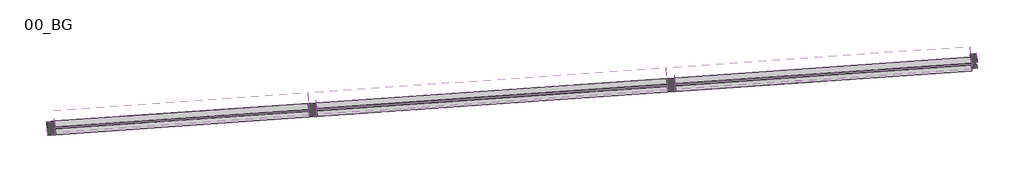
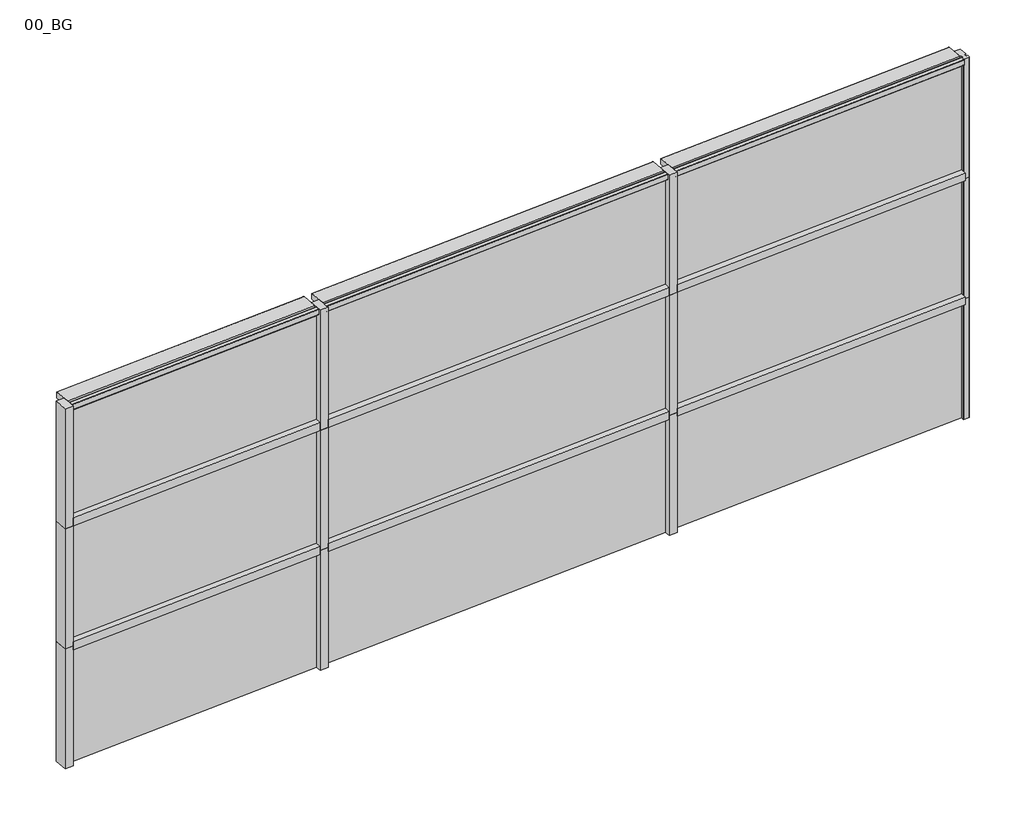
# One storey, incomplete: 21 members, 9 plates.
"""IFC4 building model written with IfcOpenShell, lengths in millimetres."""

from ifc_helpers import new_model, si_unit, origin, place, context, project, spatial, transform, mapped, element, save
from components import rectangular_mullion_06f2ecc5, rectangular_mullion_f1299129, rectangular_mullion_e95b822f, rectangular_mullion_34e5cd4e, rectangular_mullion_53f27373, rectangular_mullion_723cc66a, rectangular_mullion_c9114e96, rectangular_mullion_9417e5ac, rectangular_mullion_30_hout_links_a64d900f, rectangular_mullion_30_hout_rechts_a9cd09ce, rectangular_mullion_30_hout_rechts_4bb27563, rectangular_mullion_30_hout_rechts_13283482, system_panel_glazed_285ea693, system_panel_glazed_1aea73b9, system_panel_glazed_1b3e268e, system_panel_glazed_4d74a10d, system_panel_glazed_31ea7d48, system_panel_glazed_cb2f4e5a

model = new_model("IFC4")

# Units and contexts
model_context = context("Model", 3, world=origin())
ifc_project = project(units=[si_unit("LENGTHUNIT", "METRE", prefix="MILLI")], contexts=[model_context])

# Site, building, storey
site = spatial("IfcSite", under=ifc_project)
building = spatial("IfcBuilding", under=site)
storey = spatial("IfcBuildingStorey", under=building, Name="00_BG", Elevation=0.0)

# Members
placement = place(None, origin())
rectangular_mullion_shape = rectangular_mullion_06f2ecc5(model_context)
element("IfcMember", 1, ObjectType="Rectangular Mullion : Reynaers verticaal", at=placement, inside=storey, context=model_context, shape_type="MappedRepresentation", body=[
    mapped(rectangular_mullion_shape, transform((15085.193339, 12107.0951367, 3100.0), x_axis=(0.0, 0.0, 1.0), y_axis=(-0.06975647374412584, 0.9975640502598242, 0.0), z_axis=(-0.9975640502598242, -0.06975647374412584, 0.0))),
])
rectangular_mullion_2_shape = rectangular_mullion_f1299129(model_context)
element("IfcMember", 2, ObjectType="Rectangular Mullion : Reynaers verticaal", at=placement, inside=storey, context=model_context, shape_type="MappedRepresentation", body=[
    mapped(rectangular_mullion_2_shape, transform((18044.7996155, 12314.0509682, 3100.0), x_axis=(0.0, 0.0, 1.0), y_axis=(-0.06975647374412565, 0.9975640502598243, 0.0), z_axis=(-0.9975640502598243, -0.06975647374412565, 0.0))),
])
rectangular_mullion_3_shape = rectangular_mullion_e95b822f(model_context)
element("IfcMember", 3, ObjectType="Rectangular Mullion : Reynaers verticaal", at=placement, inside=storey, context=model_context, shape_type="MappedRepresentation", body=[
    mapped(rectangular_mullion_3_shape, transform((12923.9708241, 11955.9677363, 3100.0), x_axis=(0.0, 0.0, 1.0), y_axis=(-0.06975647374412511, 0.9975640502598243, 0.0), z_axis=(-0.9975640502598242, -0.0697564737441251, 0.0))),
])
rectangular_mullion_4_shape = rectangular_mullion_34e5cd4e(model_context)
element("IfcMember", 4, ObjectType="Rectangular Mullion : 30_rechthoek", at=placement, inside=storey, context=model_context, shape_type="MappedRepresentation", body=[
    mapped(rectangular_mullion_4_shape, transform((12923.9708241, 11955.9677363, 1033.3333333), x_axis=(0.0, 0.0, 1.0), y_axis=(-0.06975647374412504, 0.9975640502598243, 0.0), z_axis=(-0.9975640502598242, -0.06975647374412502, 0.0))),
])
rectangular_mullion_5_shape = rectangular_mullion_53f27373(model_context)
element("IfcMember", 5, ObjectType="Rectangular Mullion : 30_rechthoek", at=placement, inside=storey, context=model_context, shape_type="MappedRepresentation", body=[
    mapped(rectangular_mullion_5_shape, transform((15085.193339, 12107.0951367, 1033.3333333), x_axis=(0.0, 0.0, 1.0), y_axis=(-0.06975647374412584, 0.9975640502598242, 0.0), z_axis=(-0.9975640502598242, -0.06975647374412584, 0.0))),
])
rectangular_mullion_6_shape = rectangular_mullion_723cc66a(model_context)
element("IfcMember", 6, ObjectType="Rectangular Mullion : 30_rechthoek", at=placement, inside=storey, context=model_context, shape_type="MappedRepresentation", body=[
    mapped(rectangular_mullion_6_shape, transform((18044.7996155, 12314.0509682, 1033.3333333), x_axis=(0.0, 0.0, 1.0), y_axis=(-0.06975647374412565, 0.9975640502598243, 0.0), z_axis=(-0.9975640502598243, -0.06975647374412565, 0.0))),
])
rectangular_mullion_7_shape = rectangular_mullion_c9114e96(model_context)
element("IfcMember", 7, ObjectType="Rectangular Mullion : 30_hout_midden", at=placement, inside=storey, context=model_context, shape_type="MappedRepresentation", body=[
    mapped(rectangular_mullion_7_shape, transform((15051.7749433, 12104.7582948, 2066.6666667), x_axis=(-0.9975640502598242, -0.06975647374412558, 0.0), y_axis=(-0.06975647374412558, 0.9975640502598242, 0.0), z_axis=(0.0, 0.0, -1.0))),
])
element("IfcMember", 8, ObjectType="Rectangular Mullion : 30_hout_midden", at=placement, inside=storey, context=model_context, shape_type="MappedRepresentation", body=[
    mapped(rectangular_mullion_7_shape, transform((15051.7749433, 12104.7582948, 1033.3333333), x_axis=(-0.9975640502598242, -0.06975647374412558, 0.0), y_axis=(-0.06975647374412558, 0.9975640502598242, 0.0), z_axis=(0.0, 0.0, -1.0))),
])
element("IfcMember", 9, ObjectType="Rectangular Mullion : 30_hout_midden", at=placement, inside=storey, context=model_context, shape_type="MappedRepresentation", body=[
    mapped(rectangular_mullion_7_shape, transform((15051.7749433, 12104.7582948, 0.0), x_axis=(-0.9975640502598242, -0.06975647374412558, 0.0), y_axis=(-0.06975647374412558, 0.9975640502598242, 0.0), z_axis=(0.0, 0.0, -1.0))),
])
rectangular_mullion_8_shape = rectangular_mullion_9417e5ac(model_context)
element("IfcMember", 10, ObjectType="Rectangular Mullion : Reynaers horizontaal", at=placement, inside=storey, context=model_context, shape_type="MappedRepresentation", body=[
    mapped(rectangular_mullion_8_shape, transform((20538.3772198, 12488.4189004, 2066.6666667), x_axis=(0.9975640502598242, 0.06975647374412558, 0.0), y_axis=(-0.06975647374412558, 0.9975640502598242, 0.0), z_axis=(0.0, 0.0, 1.0))),
])
element("IfcMember", 11, ObjectType="Rectangular Mullion : Reynaers horizontaal", at=placement, inside=storey, context=model_context, shape_type="MappedRepresentation", body=[
    mapped(rectangular_mullion_8_shape, transform((20538.3772198, 12488.4189004, 1033.3333333), x_axis=(0.9975640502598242, 0.06975647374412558, 0.0), y_axis=(-0.06975647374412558, 0.9975640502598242, 0.0), z_axis=(0.0, 0.0, 1.0))),
])
element("IfcMember", 12, ObjectType="Rectangular Mullion : Reynaers horizontaal", at=placement, inside=storey, context=model_context, shape_type="MappedRepresentation", body=[
    mapped(rectangular_mullion_8_shape, transform((20538.3772198, 12488.4189004, 3100.0), x_axis=(0.9975640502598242, 0.06975647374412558, 0.0), y_axis=(-0.06975647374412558, 0.9975640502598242, 0.0), z_axis=(0.0, 0.0, 1.0))),
])
rectangular_mullion_30_hout_links_shape = rectangular_mullion_30_hout_links_a64d900f(model_context)
element("IfcMember", 13, ObjectType="Rectangular Mullion : 30_hout_midden", at=placement, inside=storey, context=model_context, shape_type="MappedRepresentation", body=[
    mapped(rectangular_mullion_30_hout_links_shape, transform((12857.1340328, 11951.2940526, 2066.6666667), x_axis=(-0.9975640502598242, -0.06975647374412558, 0.0), y_axis=(-0.06975647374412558, 0.9975640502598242, 0.0), z_axis=(0.0, 0.0, -1.0))),
])
element("IfcMember", 14, ObjectType="Rectangular Mullion : 30_hout_midden", at=placement, inside=storey, context=model_context, shape_type="MappedRepresentation", body=[
    mapped(rectangular_mullion_30_hout_links_shape, transform((12857.1340328, 11951.2940526, 1033.3333333), x_axis=(-0.9975640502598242, -0.06975647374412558, 0.0), y_axis=(-0.06975647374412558, 0.9975640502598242, 0.0), z_axis=(0.0, 0.0, -1.0))),
])
element("IfcMember", 15, ObjectType="Rectangular Mullion : 30_hout_midden", at=placement, inside=storey, context=model_context, shape_type="MappedRepresentation", body=[
    mapped(rectangular_mullion_30_hout_links_shape, transform((12857.1340328, 11951.2940526, 0.0), x_axis=(-0.9975640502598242, -0.06975647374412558, 0.0), y_axis=(-0.06975647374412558, 0.9975640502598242, 0.0), z_axis=(0.0, 0.0, -1.0))),
])
element("IfcMember", 16, ObjectType="Rectangular Mullion : 30_hout_links", at=placement, inside=storey, context=model_context, shape_type="MappedRepresentation", body=[
    mapped(rectangular_mullion_30_hout_links_shape, transform((17977.9628241, 12309.3772845, 2066.6666667), x_axis=(-0.9975640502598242, -0.06975647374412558, 0.0), y_axis=(-0.06975647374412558, 0.9975640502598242, 0.0), z_axis=(0.0, 0.0, -1.0))),
])
element("IfcMember", 17, ObjectType="Rectangular Mullion : 30_hout_links", at=placement, inside=storey, context=model_context, shape_type="MappedRepresentation", body=[
    mapped(rectangular_mullion_30_hout_links_shape, transform((17977.9628241, 12309.3772845, 1033.3333333), x_axis=(-0.9975640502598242, -0.06975647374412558, 0.0), y_axis=(-0.06975647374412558, 0.9975640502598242, 0.0), z_axis=(0.0, 0.0, -1.0))),
])
element("IfcMember", 18, ObjectType="Rectangular Mullion : 30_hout_links", at=placement, inside=storey, context=model_context, shape_type="MappedRepresentation", body=[
    mapped(rectangular_mullion_30_hout_links_shape, transform((17977.9628241, 12309.3772845, 0.0), x_axis=(-0.9975640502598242, -0.06975647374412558, 0.0), y_axis=(-0.06975647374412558, 0.9975640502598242, 0.0), z_axis=(0.0, 0.0, -1.0))),
])
rectangular_mullion_30_hout_rechts_shape = rectangular_mullion_30_hout_rechts_a9cd09ce(model_context)
element("IfcMember", 19, ObjectType="Rectangular Mullion : 30_hout_rechts", at=placement, inside=storey, context=model_context, shape_type="MappedRepresentation", body=[
    mapped(rectangular_mullion_30_hout_rechts_shape, transform((12923.9708241, 11955.9677363, 2066.6666667), x_axis=(0.0, 0.0, 1.0), y_axis=(-0.06975647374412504, 0.9975640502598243, 0.0), z_axis=(-0.9975640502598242, -0.06975647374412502, 0.0))),
])
rectangular_mullion_30_hout_rechts_2_shape = rectangular_mullion_30_hout_rechts_4bb27563(model_context)
element("IfcMember", 20, ObjectType="Rectangular Mullion : 30_hout_rechts", at=placement, inside=storey, context=model_context, shape_type="MappedRepresentation", body=[
    mapped(rectangular_mullion_30_hout_rechts_2_shape, transform((15085.193339, 12107.0951367, 2066.6666667), x_axis=(0.0, 0.0, 1.0), y_axis=(-0.06975647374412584, 0.9975640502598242, 0.0), z_axis=(-0.9975640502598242, -0.06975647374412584, 0.0))),
])
rectangular_mullion_30_hout_rechts_3_shape = rectangular_mullion_30_hout_rechts_13283482(model_context)
element("IfcMember", 21, ObjectType="Rectangular Mullion : 30_hout_rechts", at=placement, inside=storey, context=model_context, shape_type="MappedRepresentation", body=[
    mapped(rectangular_mullion_30_hout_rechts_3_shape, transform((18044.7996155, 12314.0509682, 2066.6666667), x_axis=(0.0, 0.0, 1.0), y_axis=(-0.06975647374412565, 0.9975640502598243, 0.0), z_axis=(-0.9975640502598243, -0.06975647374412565, 0.0))),
])

# Plates
system_panel_glazed_shape = system_panel_glazed_285ea693(model_context)
element("IfcPlate", 22, ObjectType="System Panel : Glazed", at=placement, inside=storey, context=model_context, shape_type="MappedRepresentation", body=[
    mapped(system_panel_glazed_shape, transform((19273.5365343, 12399.9726237, 0.0), x_axis=(-0.9975640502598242, -0.06975647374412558, 0.0), y_axis=(0.06975647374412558, -0.9975640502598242, 0.0), z_axis=(0.0, 0.0, 1.0))),
])
element("IfcPlate", 23, ObjectType="System Panel : Glazed", at=placement, inside=storey, context=model_context, shape_type="MappedRepresentation", body=[
    mapped(system_panel_glazed_shape, transform((19273.5365343, 12399.9726237, 1066.8333333), x_axis=(-0.9975640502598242, -0.06975647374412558, 0.0), y_axis=(0.06975647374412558, -0.9975640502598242, 0.0), z_axis=(0.0, 0.0, 1.0))),
])
system_panel_glazed_2_shape = system_panel_glazed_1aea73b9(model_context)
element("IfcPlate", 24, ObjectType="System Panel : Glazed", at=placement, inside=storey, context=model_context, shape_type="MappedRepresentation", body=[
    mapped(system_panel_glazed_2_shape, transform((16531.5780816, 12208.2362106, 1066.8333333), x_axis=(-0.9975640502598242, -0.06975647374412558, 0.0), y_axis=(0.06975647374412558, -0.9975640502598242, 0.0), z_axis=(0.0, 0.0, 1.0))),
])
system_panel_glazed_3_shape = system_panel_glazed_1b3e268e(model_context)
element("IfcPlate", 25, ObjectType="System Panel : Glazed", at=placement, inside=storey, context=model_context, shape_type="MappedRepresentation", body=[
    mapped(system_panel_glazed_3_shape, transform((19273.5365343, 12399.9726237, 2133.6666667), x_axis=(-0.9975640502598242, -0.06975647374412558, 0.0), y_axis=(0.06975647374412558, -0.9975640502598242, 0.0), z_axis=(0.0, 0.0, 1.0))),
])
system_panel_glazed_4_shape = system_panel_glazed_4d74a10d(model_context)
element("IfcPlate", 26, ObjectType="System Panel : Glazed", at=placement, inside=storey, context=model_context, shape_type="MappedRepresentation", body=[
    mapped(system_panel_glazed_4_shape, transform((16531.5780816, 12208.2362106, 2133.6666667), x_axis=(-0.9975640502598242, -0.06975647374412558, 0.0), y_axis=(0.06975647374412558, -0.9975640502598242, 0.0), z_axis=(0.0, 0.0, 1.0))),
])
system_panel_glazed_5_shape = system_panel_glazed_31ea7d48(model_context)
element("IfcPlate", 27, ObjectType="System Panel : Glazed", at=placement, inside=storey, context=model_context, shape_type="MappedRepresentation", body=[
    mapped(system_panel_glazed_5_shape, transform((13971.1636859, 12029.1945947, 0.0), x_axis=(-0.9975640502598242, -0.06975647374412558, 0.0), y_axis=(0.06975647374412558, -0.9975640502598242, 0.0), z_axis=(0.0, 0.0, 1.0))),
])
element("IfcPlate", 28, ObjectType="System Panel : Glazed", at=placement, inside=storey, context=model_context, shape_type="MappedRepresentation", body=[
    mapped(system_panel_glazed_5_shape, transform((13971.1636859, 12029.1945947, 1066.8333333), x_axis=(-0.9975640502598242, -0.06975647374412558, 0.0), y_axis=(0.06975647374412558, -0.9975640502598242, 0.0), z_axis=(0.0, 0.0, 1.0))),
])
system_panel_glazed_6_shape = system_panel_glazed_cb2f4e5a(model_context)
element("IfcPlate", 29, ObjectType="System Panel : Glazed", at=placement, inside=storey, context=model_context, shape_type="MappedRepresentation", body=[
    mapped(system_panel_glazed_6_shape, transform((13971.1636859, 12029.1945947, 2133.6666667), x_axis=(-0.9975640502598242, -0.06975647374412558, 0.0), y_axis=(0.06975647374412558, -0.9975640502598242, 0.0), z_axis=(0.0, 0.0, 1.0))),
])
element("IfcPlate", 30, ObjectType="System Panel : Solid", at=placement, inside=storey, context=model_context, shape_type="MappedRepresentation", body=[
    mapped(system_panel_glazed_2_shape, transform((16531.5780816, 12208.2362106, 0.0), x_axis=(-0.9975640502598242, -0.06975647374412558, 0.0), y_axis=(0.06975647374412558, -0.9975640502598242, 0.0), z_axis=(0.0, 0.0, 1.0))),
])

save(model, "model.ifc")
